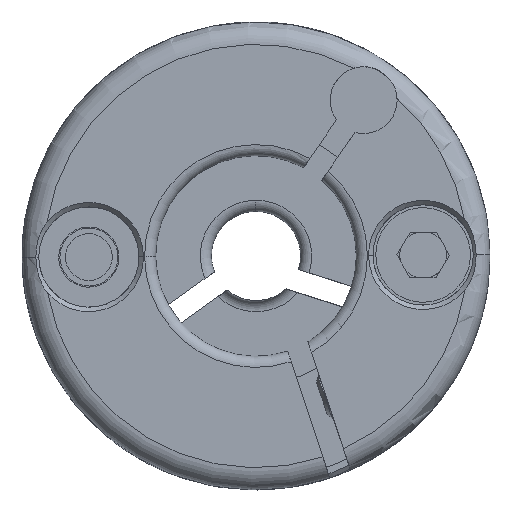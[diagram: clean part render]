
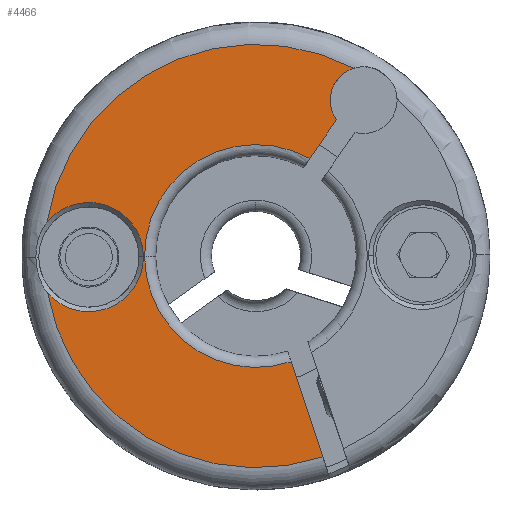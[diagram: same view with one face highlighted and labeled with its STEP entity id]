
A CAD part, front view. The second image highlights one B-rep face of the part: STEP entity #4466.
In plain terms, the highlighted planar face has unit normal (0, -1, 0).
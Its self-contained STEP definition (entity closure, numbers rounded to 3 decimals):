
#566 = DIRECTION ( 'NONE',  ( -1., 0., -0.006 ) ) ;
#567 = DIRECTION ( 'NONE',  ( 0., 1., 0. ) ) ;
#568 = CARTESIAN_POINT ( 'NONE',  ( -1.283, -5.463, 9.081 ) ) ;
#569 = AXIS2_PLACEMENT_3D ( 'NONE', #568, #567, #566 ) ;
#570 = CIRCLE ( 'NONE', #569, 1.5 ) ;
#571 = DIRECTION ( 'NONE',  ( -1., 0., -0.006 ) ) ;
#572 = DIRECTION ( 'NONE',  ( 0., 1., 0. ) ) ;
#573 = CARTESIAN_POINT ( 'NONE',  ( -6.114, -5.463, 2.088 ) ) ;
#574 = AXIS2_PLACEMENT_3D ( 'NONE', #573, #572, #571 ) ;
#575 = PLANE ( 'NONE',  #574 ) ;
#576 = FACE_OUTER_BOUND ( 'NONE', #4453, .T. ) ;
#577 = DIRECTION ( 'NONE',  ( -1., 0., -0.006 ) ) ;
#578 = DIRECTION ( 'NONE',  ( 0., 1., 0. ) ) ;
#579 = CARTESIAN_POINT ( 'NONE',  ( -13.614, -5.463, 2.04 ) ) ;
#580 = AXIS2_PLACEMENT_3D ( 'NONE', #579, #578, #577 ) ;
#585 = CIRCLE ( 'NONE', #580, 2.45 ) ;
#601 = DIRECTION ( 'NONE',  ( -1., 0., -0.006 ) ) ;
#602 = DIRECTION ( 'NONE',  ( 0., 1., 0. ) ) ;
#603 = CARTESIAN_POINT ( 'NONE',  ( -6.114, -5.463, 2.088 ) ) ;
#604 = AXIS2_PLACEMENT_3D ( 'NONE', #603, #602, #601 ) ;
#605 = CIRCLE ( 'NONE', #604, 5. ) ;
#706 = DIRECTION ( 'NONE',  ( 0.315, 0., -0.949 ) ) ;
#707 = VECTOR ( 'NONE', #706, 1000. ) ;
#708 = CARTESIAN_POINT ( 'NONE',  ( -10.282, -5.463, 14.646 ) ) ;
#709 = LINE ( 'NONE', #708, #707 ) ;
#1165 = CARTESIAN_POINT ( 'NONE',  ( -4.539, -5.463, -2.658 ) ) ;
#1166 = DIRECTION ( 'NONE',  ( -1., 0., -0.006 ) ) ;
#1167 = DIRECTION ( 'NONE',  ( 0., 1., 0. ) ) ;
#1168 = CARTESIAN_POINT ( 'NONE',  ( -6.114, -5.463, 2.088 ) ) ;
#1169 = AXIS2_PLACEMENT_3D ( 'NONE', #1168, #1167, #1166 ) ;
#1170 = CIRCLE ( 'NONE', #1169, 5. ) ;
#1260 = CARTESIAN_POINT ( 'NONE',  ( -11.114, -5.463, 2.056 ) ) ;
#1927 = CARTESIAN_POINT ( 'NONE',  ( -1.283, -5.463, 9.081 ) ) ;
#1928 = CARTESIAN_POINT ( 'NONE',  ( -1.727, -5.463, 10.514 ) ) ;
#1978 = CARTESIAN_POINT ( 'NONE',  ( -2.783, -5.463, 9.071 ) ) ;
#1979 = DIRECTION ( 'NONE',  ( -1., 0., -0.006 ) ) ;
#1981 = DIRECTION ( 'NONE',  ( 0., 1., 0. ) ) ;
#2004 = AXIS2_PLACEMENT_3D ( 'NONE', #1927, #1981, #1979 ) ;
#2006 = CIRCLE ( 'NONE', #2004, 1.5 ) ;
#2788 = DIRECTION ( 'NONE',  ( -1., 0., -0.006 ) ) ;
#2790 = DIRECTION ( 'NONE',  ( 0., -1., 0. ) ) ;
#2791 = CARTESIAN_POINT ( 'NONE',  ( -6.114, -5.463, 2.088 ) ) ;
#2792 = AXIS2_PLACEMENT_3D ( 'NONE', #2791, #2790, #2788 ) ;
#2803 = CIRCLE ( 'NONE', #2792, 9.5 ) ;
#2824 = CARTESIAN_POINT ( 'NONE',  ( -11.164, -5.463, 2.056 ) ) ;
#2836 = DIRECTION ( 'NONE',  ( -1., 0., -0.006 ) ) ;
#2837 = DIRECTION ( 'NONE',  ( 0., 1., 0. ) ) ;
#2838 = CARTESIAN_POINT ( 'NONE',  ( -13.614, -5.463, 2.04 ) ) ;
#2839 = AXIS2_PLACEMENT_3D ( 'NONE', #2838, #2837, #2836 ) ;
#2840 = CIRCLE ( 'NONE', #2839, 2.45 ) ;
#4447 = EDGE_CURVE ( 'NONE', #13514, #17112, #585, .T. ) ;
#4453 = EDGE_LOOP ( 'NONE', ( #4469, #4455, #4456, #4457, #4458, #4545, #4546, #4548, #4550, #4552 ) ) ;
#4455 = ORIENTED_EDGE ( 'NONE', *, *, #16916, .T. ) ;
#4456 = ORIENTED_EDGE ( 'NONE', *, *, #13505, .T. ) ;
#4457 = ORIENTED_EDGE ( 'NONE', *, *, #4447, .T. ) ;
#4458 = ORIENTED_EDGE ( 'NONE', *, *, #17128, .T. ) ;
#4466 = ADVANCED_FACE ( 'NONE', ( #576 ), #575, .F. ) ;
#4469 = ORIENTED_EDGE ( 'NONE', *, *, #4470, .T. ) ;
#4470 = EDGE_CURVE ( 'NONE', #6184, #16917, #570, .T. ) ;
#4483 = EDGE_CURVE ( 'NONE', #14657, #6162, #605, .T. ) ;
#4545 = ORIENTED_EDGE ( 'NONE', *, *, #17119, .T. ) ;
#4546 = ORIENTED_EDGE ( 'NONE', *, *, #4547, .F. ) ;
#4547 = EDGE_CURVE ( 'NONE', #14425, #13509, #709, .T. ) ;
#4548 = ORIENTED_EDGE ( 'NONE', *, *, #14424, .T. ) ;
#4550 = ORIENTED_EDGE ( 'NONE', *, *, #4483, .T. ) ;
#4552 = ORIENTED_EDGE ( 'NONE', *, *, #6160, .F. ) ;
#6160 = EDGE_CURVE ( 'NONE', #6184, #6162, #11915, .T. ) ;
#6162 = VERTEX_POINT ( 'NONE', #11911 ) ;
#6184 = VERTEX_POINT ( 'NONE', #11946 ) ;
#11911 = CARTESIAN_POINT ( 'NONE',  ( -3.698, -5.463, 6.465 ) ) ;
#11912 = DIRECTION ( 'NONE',  ( -0.568, 0., -0.823 ) ) ;
#11913 = VECTOR ( 'NONE', #11912, 1000. ) ;
#11914 = CARTESIAN_POINT ( 'NONE',  ( 1.788, -5.463, 14.404 ) ) ;
#11915 = LINE ( 'NONE', #11914, #11913 ) ;
#11946 = CARTESIAN_POINT ( 'NONE',  ( -2.498, -5.463, 8.201 ) ) ;
#13460 = VERTEX_POINT ( 'NONE', #17488 ) ;
#13505 = EDGE_CURVE ( 'NONE', #16914, #13514, #17524, .T. ) ;
#13509 = VERTEX_POINT ( 'NONE', #17514 ) ;
#13514 = VERTEX_POINT ( 'NONE', #17513 ) ;
#14424 = EDGE_CURVE ( 'NONE', #14425, #14657, #1170, .T. ) ;
#14425 = VERTEX_POINT ( 'NONE', #1165 ) ;
#14657 = VERTEX_POINT ( 'NONE', #1260 ) ;
#16914 = VERTEX_POINT ( 'NONE', #1928 ) ;
#16916 = EDGE_CURVE ( 'NONE', #16917, #16914, #2006, .T. ) ;
#16917 = VERTEX_POINT ( 'NONE', #1978 ) ;
#17112 = VERTEX_POINT ( 'NONE', #2824 ) ;
#17119 = EDGE_CURVE ( 'NONE', #13460, #13509, #2803, .T. ) ;
#17128 = EDGE_CURVE ( 'NONE', #17112, #13460, #2840, .T. ) ;
#17488 = CARTESIAN_POINT ( 'NONE',  ( -15.471, -5.463, 0.442 ) ) ;
#17513 = CARTESIAN_POINT ( 'NONE',  ( -15.49, -5.463, 3.616 ) ) ;
#17514 = CARTESIAN_POINT ( 'NONE',  ( -3.122, -5.463, -6.929 ) ) ;
#17520 = DIRECTION ( 'NONE',  ( -1., 0., -0.006 ) ) ;
#17521 = DIRECTION ( 'NONE',  ( 0., -1., 0. ) ) ;
#17522 = CARTESIAN_POINT ( 'NONE',  ( -6.114, -5.463, 2.088 ) ) ;
#17523 = AXIS2_PLACEMENT_3D ( 'NONE', #17522, #17521, #17520 ) ;
#17524 = CIRCLE ( 'NONE', #17523, 9.5 ) ;
